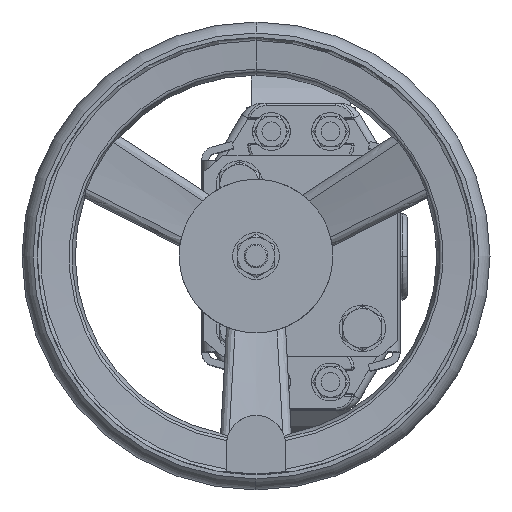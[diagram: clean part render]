
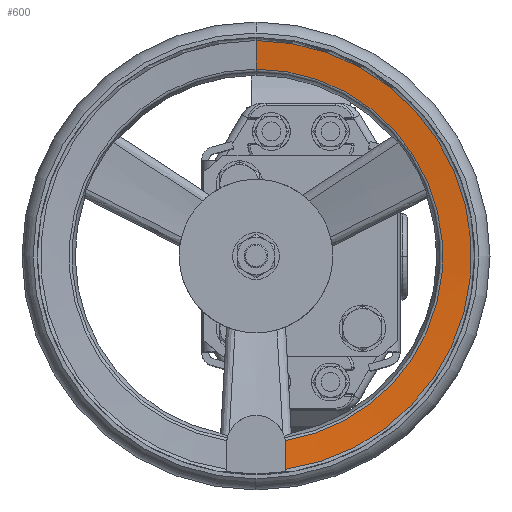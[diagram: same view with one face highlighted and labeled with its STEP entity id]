
A CAD part, top view. The second image highlights one B-rep face of the part: STEP entity #600.
In plain terms, the highlighted conical face has half-angle 85 degrees and reference radius 92.5 mm.
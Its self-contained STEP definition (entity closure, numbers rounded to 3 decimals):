
#600=ADVANCED_FACE('',(#1972),#1973,.F.);
#1972=FACE_OUTER_BOUND('',#4382,.T.);
#1973=CONICAL_SURFACE('',#4383,92.5,1.484);
#4382=EDGE_LOOP('',(#12820,#12821,#12822,#12823,#12824));
#4383=AXIS2_PLACEMENT_3D('',#12825,#12826,#12827);
#12820=ORIENTED_EDGE('',*,*,#20816,.F.);
#12821=ORIENTED_EDGE('',*,*,#20817,.T.);
#12822=ORIENTED_EDGE('',*,*,#20818,.T.);
#12823=ORIENTED_EDGE('',*,*,#20819,.T.);
#12824=ORIENTED_EDGE('',*,*,#20693,.T.);
#12825=CARTESIAN_POINT('',(-19.,0.,344.244));
#12826=DIRECTION('',(0.,0.,1.));
#12827=DIRECTION('',(0.,1.,0.));
#20693=EDGE_CURVE('',#24433,#24431,#24434,.T.);
#20816=EDGE_CURVE('',#24374,#24431,#24666,.T.);
#20817=EDGE_CURVE('',#24374,#24667,#24668,.T.);
#20818=EDGE_CURVE('',#24667,#24669,#24670,.T.);
#20819=EDGE_CURVE('',#24669,#24433,#24671,.T.);
#24374=VERTEX_POINT('',#29767);
#24431=VERTEX_POINT('',#29865);
#24433=VERTEX_POINT('',#29867);
#24434=CIRCLE('',#29868,91.131);
#24666=LINE('',#30432,#30433);
#24667=VERTEX_POINT('',#30434);
#24668=CIRCLE('',#30435,79.042);
#24669=VERTEX_POINT('',#30436);
#24670=B_SPLINE_CURVE_WITH_KNOTS('',3,(#30437,#30438,#30439,#30440),.UNSPECIFIED.,.F.,.F.,(4,4),(0.,0.002),.UNSPECIFIED.);
#24671=B_SPLINE_CURVE_WITH_KNOTS('',3,(#30441,#30442,#30443,#30444),.UNSPECIFIED.,.F.,.F.,(4,4),(0.021,0.032),.UNSPECIFIED.);
#29767=CARTESIAN_POINT('',(-19.,79.042,343.067));
#29865=CARTESIAN_POINT('',(-19.,91.131,344.124));
#29867=CARTESIAN_POINT('',(-6.5,-90.269,344.124));
#29868=AXIS2_PLACEMENT_3D('',#39176,#39177,#39178);
#30432=CARTESIAN_POINT('',(-19.,92.5,344.244));
#30433=VECTOR('',#39402,1.);
#30434=CARTESIAN_POINT('',(-6.65,-78.071,343.067));
#30435=AXIS2_PLACEMENT_3D('',#39403,#39404,#39405);
#30436=CARTESIAN_POINT('',(-6.5,-80.001,343.235));
#30437=CARTESIAN_POINT('',(-6.65,-78.071,343.067));
#30438=CARTESIAN_POINT('',(-6.55,-78.712,343.123));
#30439=CARTESIAN_POINT('',(-6.5,-79.355,343.18));
#30440=CARTESIAN_POINT('',(-6.5,-80.001,343.235));
#30441=CARTESIAN_POINT('',(-6.5,-80.001,343.235));
#30442=CARTESIAN_POINT('',(-6.5,-83.424,343.531));
#30443=CARTESIAN_POINT('',(-6.5,-86.847,343.828));
#30444=CARTESIAN_POINT('',(-6.5,-90.269,344.124));
#39176=CARTESIAN_POINT('',(-19.,0.,344.124));
#39177=DIRECTION('',(0.,0.,1.));
#39178=DIRECTION('',(0.,1.,0.));
#39402=DIRECTION('',(0.,0.996,0.087));
#39403=CARTESIAN_POINT('',(-19.,0.,343.067));
#39404=DIRECTION('',(0.,0.,-1.));
#39405=DIRECTION('',(0.,-1.,0.));
